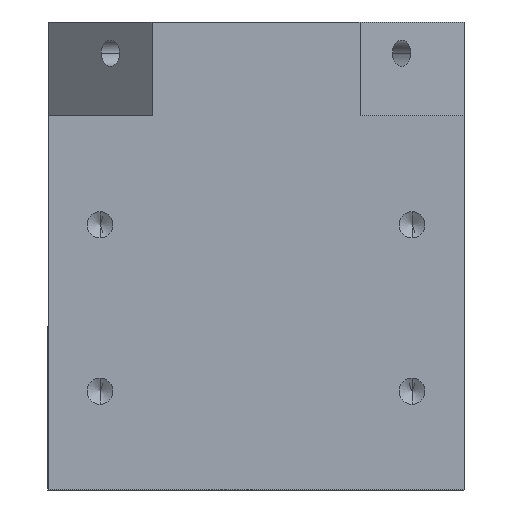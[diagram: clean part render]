
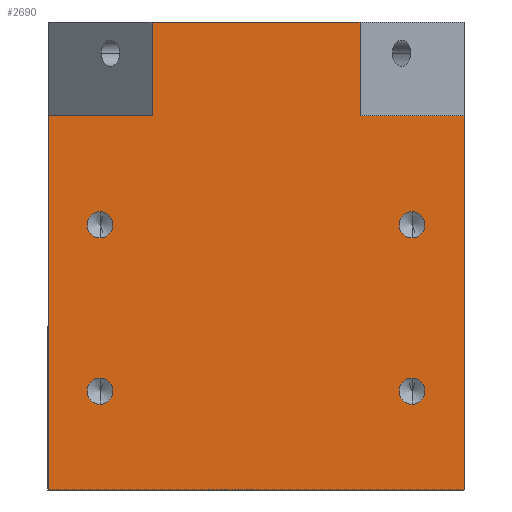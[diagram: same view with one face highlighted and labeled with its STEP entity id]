
A CAD part, front view. The second image highlights one B-rep face of the part: STEP entity #2690.
In plain terms, the highlighted planar face has unit normal (0, -1, 0).
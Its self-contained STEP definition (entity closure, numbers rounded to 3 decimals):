
#90 = VERTEX_POINT ( 'NONE', #5335 ) ;
#144 = DIRECTION ( 'NONE',  ( 0., 0., 1. ) ) ;
#213 = EDGE_LOOP ( 'NONE', ( #5767, #1426 ) ) ;
#286 = LINE ( 'NONE', #4959, #1977 ) ;
#343 = CARTESIAN_POINT ( 'NONE',  ( -15., -18., -20.75 ) ) ;
#398 = VECTOR ( 'NONE', #4321, 1000. ) ;
#496 = AXIS2_PLACEMENT_3D ( 'NONE', #5205, #2429, #2373 ) ;
#520 = ORIENTED_EDGE ( 'NONE', *, *, #3614, .F. ) ;
#556 = CARTESIAN_POINT ( 'NONE',  ( -15., -18., -19.5 ) ) ;
#557 = VERTEX_POINT ( 'NONE', #4122 ) ;
#577 = ORIENTED_EDGE ( 'NONE', *, *, #2847, .F. ) ;
#578 = CARTESIAN_POINT ( 'NONE',  ( 10., -18., -9. ) ) ;
#675 = LINE ( 'NONE', #3507, #5936 ) ;
#702 = VERTEX_POINT ( 'NONE', #5130 ) ;
#778 = VECTOR ( 'NONE', #4372, 1000. ) ;
#802 = EDGE_LOOP ( 'NONE', ( #520, #2619 ) ) ;
#831 = DIRECTION ( 'NONE',  ( 0., -1., 0. ) ) ;
#970 = EDGE_CURVE ( 'NONE', #702, #3026, #1754, .T. ) ;
#1040 = VERTEX_POINT ( 'NONE', #578 ) ;
#1059 = EDGE_CURVE ( 'NONE', #4719, #2023, #3798, .T. ) ;
#1075 = VECTOR ( 'NONE', #2898, 1000. ) ;
#1092 = PLANE ( 'NONE',  #4458 ) ;
#1095 = EDGE_CURVE ( 'NONE', #5548, #1682, #1568, .T. ) ;
#1097 = AXIS2_PLACEMENT_3D ( 'NONE', #5921, #4537, #4572 ) ;
#1122 = FACE_OUTER_BOUND ( 'NONE', #1532, .T. ) ;
#1148 = CARTESIAN_POINT ( 'NONE',  ( -20., -18., 0. ) ) ;
#1247 = CARTESIAN_POINT ( 'NONE',  ( -15., -18., -35.5 ) ) ;
#1287 = CARTESIAN_POINT ( 'NONE',  ( 15., -18., -19.5 ) ) ;
#1342 = CARTESIAN_POINT ( 'NONE',  ( 15., -18., -35.5 ) ) ;
#1361 = CIRCLE ( 'NONE', #2029, 1.25 ) ;
#1426 = ORIENTED_EDGE ( 'NONE', *, *, #4757, .F. ) ;
#1462 = ORIENTED_EDGE ( 'NONE', *, *, #1059, .T. ) ;
#1480 = CIRCLE ( 'NONE', #4851, 1.25 ) ;
#1499 = DIRECTION ( 'NONE',  ( 0., 0., 1. ) ) ;
#1506 = VERTEX_POINT ( 'NONE', #5553 ) ;
#1532 = EDGE_LOOP ( 'NONE', ( #577, #2108, #5502, #2353, #1462, #3504, #3320, #1973 ) ) ;
#1552 = CARTESIAN_POINT ( 'NONE',  ( -20., -18., -9. ) ) ;
#1568 = CIRCLE ( 'NONE', #496, 1.25 ) ;
#1581 = EDGE_CURVE ( 'NONE', #4719, #3914, #286, .T. ) ;
#1602 = CARTESIAN_POINT ( 'NONE',  ( -15., -18., -19.5 ) ) ;
#1634 = FACE_BOUND ( 'NONE', #4574, .T. ) ;
#1635 = LINE ( 'NONE', #1552, #778 ) ;
#1682 = VERTEX_POINT ( 'NONE', #3637 ) ;
#1754 = CIRCLE ( 'NONE', #2812, 1.25 ) ;
#1816 = CARTESIAN_POINT ( 'NONE',  ( 10., -18., -9. ) ) ;
#1874 = CARTESIAN_POINT ( 'NONE',  ( -15., -18., -34.25 ) ) ;
#1960 = DIRECTION ( 'NONE',  ( 0., 0., 1. ) ) ;
#1973 = ORIENTED_EDGE ( 'NONE', *, *, #2022, .T. ) ;
#1977 = VECTOR ( 'NONE', #144, 1000. ) ;
#2022 = EDGE_CURVE ( 'NONE', #1040, #1506, #675, .T. ) ;
#2023 = VERTEX_POINT ( 'NONE', #5845 ) ;
#2026 = FACE_BOUND ( 'NONE', #2406, .T. ) ;
#2029 = AXIS2_PLACEMENT_3D ( 'NONE', #1247, #831, #3096 ) ;
#2108 = ORIENTED_EDGE ( 'NONE', *, *, #4960, .F. ) ;
#2112 = DIRECTION ( 'NONE',  ( 0., 1., 0. ) ) ;
#2258 = CARTESIAN_POINT ( 'NONE',  ( 15., -18., -18.25 ) ) ;
#2330 = AXIS2_PLACEMENT_3D ( 'NONE', #1602, #5718, #2961 ) ;
#2353 = ORIENTED_EDGE ( 'NONE', *, *, #1581, .F. ) ;
#2373 = DIRECTION ( 'NONE',  ( 0., 0., 1. ) ) ;
#2406 = EDGE_LOOP ( 'NONE', ( #4156, #4970 ) ) ;
#2429 = DIRECTION ( 'NONE',  ( 0., -1., 0. ) ) ;
#2520 = CIRCLE ( 'NONE', #2330, 1.25 ) ;
#2524 = DIRECTION ( 'NONE',  ( 0., 0., 1. ) ) ;
#2619 = ORIENTED_EDGE ( 'NONE', *, *, #970, .F. ) ;
#2690 = ADVANCED_FACE ( 'NONE', ( #4782, #2026, #5345, #1634, #1122 ), #1092, .F. ) ;
#2740 = DIRECTION ( 'NONE',  ( 0., -1., 0. ) ) ;
#2746 = LINE ( 'NONE', #1816, #5302 ) ;
#2812 = AXIS2_PLACEMENT_3D ( 'NONE', #1287, #2740, #3132 ) ;
#2847 = EDGE_CURVE ( 'NONE', #3973, #1506, #5602, .T. ) ;
#2887 = EDGE_CURVE ( 'NONE', #90, #5905, #2520, .T. ) ;
#2898 = DIRECTION ( 'NONE',  ( 1., 0., 0. ) ) ;
#2940 = DIRECTION ( 'NONE',  ( 0., 0., -1. ) ) ;
#2961 = DIRECTION ( 'NONE',  ( 0., 0., 1. ) ) ;
#3026 = VERTEX_POINT ( 'NONE', #2258 ) ;
#3064 = VERTEX_POINT ( 'NONE', #4986 ) ;
#3071 = EDGE_CURVE ( 'NONE', #1040, #5199, #2746, .T. ) ;
#3090 = VERTEX_POINT ( 'NONE', #1874 ) ;
#3096 = DIRECTION ( 'NONE',  ( 0., 0., 1. ) ) ;
#3132 = DIRECTION ( 'NONE',  ( 0., 0., 1. ) ) ;
#3157 = DIRECTION ( 'NONE',  ( 0., 0., 1. ) ) ;
#3320 = ORIENTED_EDGE ( 'NONE', *, *, #3071, .F. ) ;
#3465 = EDGE_CURVE ( 'NONE', #557, #3090, #1361, .T. ) ;
#3504 = ORIENTED_EDGE ( 'NONE', *, *, #4993, .T. ) ;
#3507 = CARTESIAN_POINT ( 'NONE',  ( 10., -18., -9. ) ) ;
#3614 = EDGE_CURVE ( 'NONE', #3026, #702, #4832, .T. ) ;
#3618 = CIRCLE ( 'NONE', #1097, 1.25 ) ;
#3620 = LINE ( 'NONE', #5032, #5514 ) ;
#3637 = CARTESIAN_POINT ( 'NONE',  ( 15., -18., -34.25 ) ) ;
#3656 = DIRECTION ( 'NONE',  ( 1., 0., 0. ) ) ;
#3698 = EDGE_CURVE ( 'NONE', #3914, #3064, #1635, .T. ) ;
#3798 = LINE ( 'NONE', #4703, #398 ) ;
#3914 = VERTEX_POINT ( 'NONE', #4514 ) ;
#3940 = CARTESIAN_POINT ( 'NONE',  ( 20., -18., -9. ) ) ;
#3969 = AXIS2_PLACEMENT_3D ( 'NONE', #5528, #5645, #1499 ) ;
#3973 = VERTEX_POINT ( 'NONE', #4775 ) ;
#4071 = CARTESIAN_POINT ( 'NONE',  ( 20., -18., 0. ) ) ;
#4093 = VECTOR ( 'NONE', #3157, 1000. ) ;
#4122 = CARTESIAN_POINT ( 'NONE',  ( -15., -18., -36.75 ) ) ;
#4137 = DIRECTION ( 'NONE',  ( 0., 0., 1. ) ) ;
#4156 = ORIENTED_EDGE ( 'NONE', *, *, #5681, .F. ) ;
#4235 = CARTESIAN_POINT ( 'NONE',  ( -20., -18., -45. ) ) ;
#4299 = DIRECTION ( 'NONE',  ( 0., -1., 0. ) ) ;
#4321 = DIRECTION ( 'NONE',  ( 1., 0., 0. ) ) ;
#4372 = DIRECTION ( 'NONE',  ( 1., 0., 0. ) ) ;
#4458 = AXIS2_PLACEMENT_3D ( 'NONE', #1148, #2112, #2940 ) ;
#4514 = CARTESIAN_POINT ( 'NONE',  ( -20., -18., -9. ) ) ;
#4537 = DIRECTION ( 'NONE',  ( 0., -1., 0. ) ) ;
#4572 = DIRECTION ( 'NONE',  ( 0., 0., 1. ) ) ;
#4574 = EDGE_LOOP ( 'NONE', ( #5075, #5895 ) ) ;
#4703 = CARTESIAN_POINT ( 'NONE',  ( -20., -18., -45. ) ) ;
#4715 = CARTESIAN_POINT ( 'NONE',  ( -20., -18., 0. ) ) ;
#4719 = VERTEX_POINT ( 'NONE', #4235 ) ;
#4756 = AXIS2_PLACEMENT_3D ( 'NONE', #556, #4299, #1960 ) ;
#4757 = EDGE_CURVE ( 'NONE', #5905, #90, #5700, .T. ) ;
#4775 = CARTESIAN_POINT ( 'NONE',  ( -10., -18., 0. ) ) ;
#4782 = FACE_BOUND ( 'NONE', #213, .T. ) ;
#4832 = CIRCLE ( 'NONE', #3969, 1.25 ) ;
#4851 = AXIS2_PLACEMENT_3D ( 'NONE', #1342, #5903, #5003 ) ;
#4959 = CARTESIAN_POINT ( 'NONE',  ( -20., -18., 0. ) ) ;
#4960 = EDGE_CURVE ( 'NONE', #3064, #3973, #3620, .T. ) ;
#4970 = ORIENTED_EDGE ( 'NONE', *, *, #3465, .F. ) ;
#4986 = CARTESIAN_POINT ( 'NONE',  ( -10., -18., -9. ) ) ;
#4993 = EDGE_CURVE ( 'NONE', #2023, #5199, #5934, .T. ) ;
#5003 = DIRECTION ( 'NONE',  ( 0., 0., 1. ) ) ;
#5015 = EDGE_CURVE ( 'NONE', #1682, #5548, #1480, .T. ) ;
#5032 = CARTESIAN_POINT ( 'NONE',  ( -10., -18., -9. ) ) ;
#5075 = ORIENTED_EDGE ( 'NONE', *, *, #5015, .F. ) ;
#5130 = CARTESIAN_POINT ( 'NONE',  ( 15., -18., -20.75 ) ) ;
#5199 = VERTEX_POINT ( 'NONE', #3940 ) ;
#5205 = CARTESIAN_POINT ( 'NONE',  ( 15., -18., -35.5 ) ) ;
#5302 = VECTOR ( 'NONE', #3656, 1000. ) ;
#5335 = CARTESIAN_POINT ( 'NONE',  ( -15., -18., -18.25 ) ) ;
#5345 = FACE_BOUND ( 'NONE', #802, .T. ) ;
#5502 = ORIENTED_EDGE ( 'NONE', *, *, #3698, .F. ) ;
#5514 = VECTOR ( 'NONE', #4137, 1000. ) ;
#5528 = CARTESIAN_POINT ( 'NONE',  ( 15., -18., -19.5 ) ) ;
#5548 = VERTEX_POINT ( 'NONE', #5574 ) ;
#5553 = CARTESIAN_POINT ( 'NONE',  ( 10., -18., 0. ) ) ;
#5574 = CARTESIAN_POINT ( 'NONE',  ( 15., -18., -36.75 ) ) ;
#5602 = LINE ( 'NONE', #4715, #1075 ) ;
#5645 = DIRECTION ( 'NONE',  ( 0., -1., 0. ) ) ;
#5681 = EDGE_CURVE ( 'NONE', #3090, #557, #3618, .T. ) ;
#5700 = CIRCLE ( 'NONE', #4756, 1.25 ) ;
#5718 = DIRECTION ( 'NONE',  ( 0., -1., 0. ) ) ;
#5767 = ORIENTED_EDGE ( 'NONE', *, *, #2887, .F. ) ;
#5845 = CARTESIAN_POINT ( 'NONE',  ( 20., -18., -45. ) ) ;
#5895 = ORIENTED_EDGE ( 'NONE', *, *, #1095, .F. ) ;
#5903 = DIRECTION ( 'NONE',  ( 0., -1., 0. ) ) ;
#5905 = VERTEX_POINT ( 'NONE', #343 ) ;
#5921 = CARTESIAN_POINT ( 'NONE',  ( -15., -18., -35.5 ) ) ;
#5934 = LINE ( 'NONE', #4071, #4093 ) ;
#5936 = VECTOR ( 'NONE', #2524, 1000. ) ;
